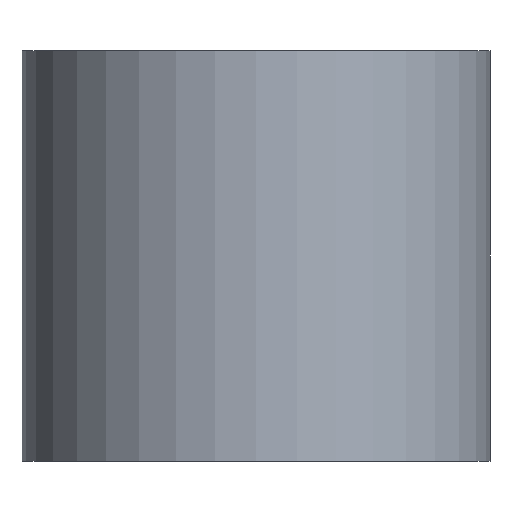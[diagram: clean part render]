
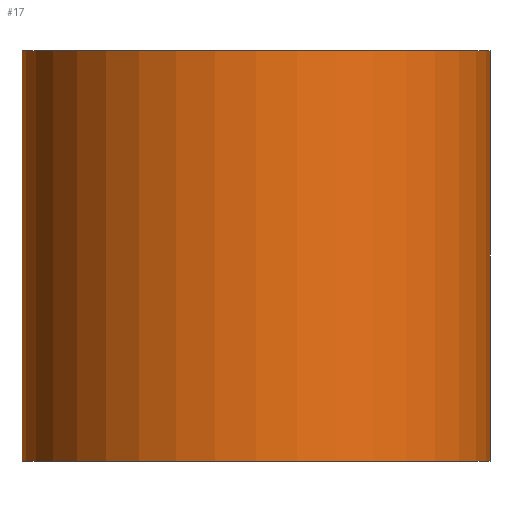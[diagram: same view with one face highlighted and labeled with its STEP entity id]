
A CAD part, front view. The second image highlights one B-rep face of the part: STEP entity #17.
In plain terms, the highlighted cylindrical face has radius 57 mm (diameter 114 mm), a full revolution.
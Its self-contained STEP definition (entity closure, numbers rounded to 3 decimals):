
#17 = ADVANCED_FACE('',(#18),#32,.T.);
#18 = FACE_BOUND('',#19,.F.);
#19 = EDGE_LOOP('',(#20,#50,#77,#78));
#20 = ORIENTED_EDGE('',*,*,#21,.T.);
#21 = EDGE_CURVE('',#22,#24,#26,.T.);
#22 = VERTEX_POINT('',#23);
#23 = CARTESIAN_POINT('',(57.,0.,0.));
#24 = VERTEX_POINT('',#25);
#25 = CARTESIAN_POINT('',(57.,0.,100.));
#26 = SEAM_CURVE('',#27,(#31,#43),.PCURVE_S1.);
#27 = LINE('',#28,#29);
#28 = CARTESIAN_POINT('',(57.,0.,0.));
#29 = VECTOR('',#30,1.);
#30 = DIRECTION('',(0.,0.,1.));
#31 = PCURVE('',#32,#37);
#32 = CYLINDRICAL_SURFACE('',#33,57.);
#33 = AXIS2_PLACEMENT_3D('',#34,#35,#36);
#34 = CARTESIAN_POINT('',(0.,0.,0.));
#35 = DIRECTION('',(-0.,-0.,-1.));
#36 = DIRECTION('',(1.,0.,-0.));
#37 = DEFINITIONAL_REPRESENTATION('',(#38),#42);
#38 = LINE('',#39,#40);
#39 = CARTESIAN_POINT('',(-0.,0.));
#40 = VECTOR('',#41,1.);
#41 = DIRECTION('',(-0.,-1.));
#42 = ( GEOMETRIC_REPRESENTATION_CONTEXT(2) 
PARAMETRIC_REPRESENTATION_CONTEXT() REPRESENTATION_CONTEXT('2D SPACE',''
  ) );
#43 = PCURVE('',#32,#44);
#44 = DEFINITIONAL_REPRESENTATION('',(#45),#49);
#45 = LINE('',#46,#47);
#46 = CARTESIAN_POINT('',(-6.283,0.));
#47 = VECTOR('',#48,1.);
#48 = DIRECTION('',(-0.,-1.));
#49 = ( GEOMETRIC_REPRESENTATION_CONTEXT(2) 
PARAMETRIC_REPRESENTATION_CONTEXT() REPRESENTATION_CONTEXT('2D SPACE',''
  ) );
#50 = ORIENTED_EDGE('',*,*,#51,.T.);
#51 = EDGE_CURVE('',#24,#24,#52,.T.);
#52 = SURFACE_CURVE('',#53,(#58,#65),.PCURVE_S1.);
#53 = CIRCLE('',#54,57.);
#54 = AXIS2_PLACEMENT_3D('',#55,#56,#57);
#55 = CARTESIAN_POINT('',(0.,0.,100.));
#56 = DIRECTION('',(0.,0.,1.));
#57 = DIRECTION('',(1.,0.,-0.));
#58 = PCURVE('',#32,#59);
#59 = DEFINITIONAL_REPRESENTATION('',(#60),#64);
#60 = LINE('',#61,#62);
#61 = CARTESIAN_POINT('',(-0.,-100.));
#62 = VECTOR('',#63,1.);
#63 = DIRECTION('',(-1.,0.));
#64 = ( GEOMETRIC_REPRESENTATION_CONTEXT(2) 
PARAMETRIC_REPRESENTATION_CONTEXT() REPRESENTATION_CONTEXT('2D SPACE',''
  ) );
#65 = PCURVE('',#66,#71);
#66 = PLANE('',#67);
#67 = AXIS2_PLACEMENT_3D('',#68,#69,#70);
#68 = CARTESIAN_POINT('',(0.,0.,100.));
#69 = DIRECTION('',(0.,0.,1.));
#70 = DIRECTION('',(1.,0.,-0.));
#71 = DEFINITIONAL_REPRESENTATION('',(#72),#76);
#72 = CIRCLE('',#73,57.);
#73 = AXIS2_PLACEMENT_2D('',#74,#75);
#74 = CARTESIAN_POINT('',(0.,0.));
#75 = DIRECTION('',(1.,0.));
#76 = ( GEOMETRIC_REPRESENTATION_CONTEXT(2) 
PARAMETRIC_REPRESENTATION_CONTEXT() REPRESENTATION_CONTEXT('2D SPACE',''
  ) );
#77 = ORIENTED_EDGE('',*,*,#21,.F.);
#78 = ORIENTED_EDGE('',*,*,#79,.F.);
#79 = EDGE_CURVE('',#22,#22,#80,.T.);
#80 = SURFACE_CURVE('',#81,(#86,#93),.PCURVE_S1.);
#81 = CIRCLE('',#82,57.);
#82 = AXIS2_PLACEMENT_3D('',#83,#84,#85);
#83 = CARTESIAN_POINT('',(0.,0.,0.));
#84 = DIRECTION('',(0.,0.,1.));
#85 = DIRECTION('',(1.,0.,-0.));
#86 = PCURVE('',#32,#87);
#87 = DEFINITIONAL_REPRESENTATION('',(#88),#92);
#88 = LINE('',#89,#90);
#89 = CARTESIAN_POINT('',(-0.,0.));
#90 = VECTOR('',#91,1.);
#91 = DIRECTION('',(-1.,0.));
#92 = ( GEOMETRIC_REPRESENTATION_CONTEXT(2) 
PARAMETRIC_REPRESENTATION_CONTEXT() REPRESENTATION_CONTEXT('2D SPACE',''
  ) );
#93 = PCURVE('',#94,#99);
#94 = PLANE('',#95);
#95 = AXIS2_PLACEMENT_3D('',#96,#97,#98);
#96 = CARTESIAN_POINT('',(0.,0.,0.));
#97 = DIRECTION('',(0.,0.,1.));
#98 = DIRECTION('',(1.,0.,-0.));
#99 = DEFINITIONAL_REPRESENTATION('',(#100),#104);
#100 = CIRCLE('',#101,57.);
#101 = AXIS2_PLACEMENT_2D('',#102,#103);
#102 = CARTESIAN_POINT('',(0.,0.));
#103 = DIRECTION('',(1.,0.));
#104 = ( GEOMETRIC_REPRESENTATION_CONTEXT(2) 
PARAMETRIC_REPRESENTATION_CONTEXT() REPRESENTATION_CONTEXT('2D SPACE',''
  ) );
